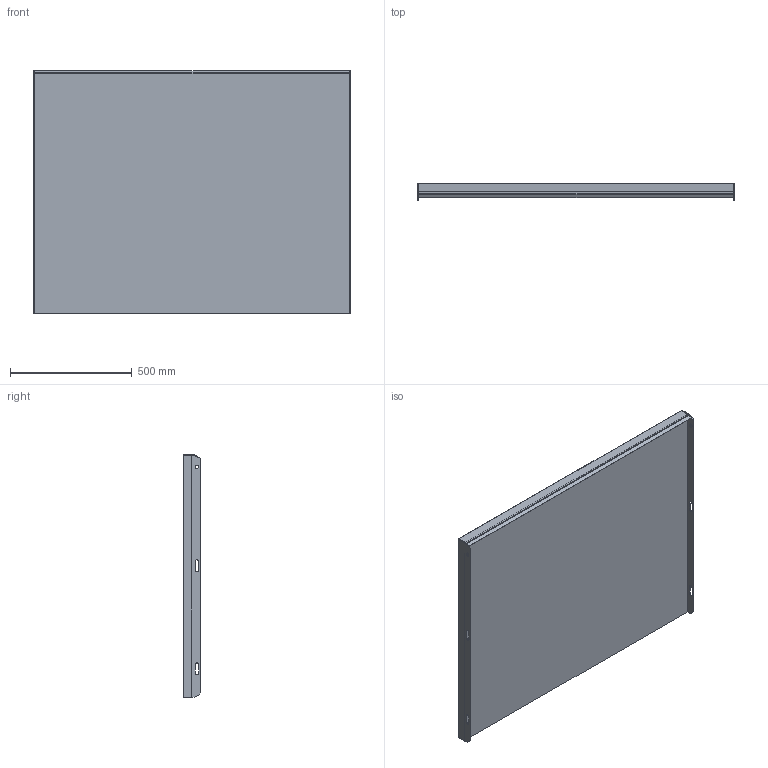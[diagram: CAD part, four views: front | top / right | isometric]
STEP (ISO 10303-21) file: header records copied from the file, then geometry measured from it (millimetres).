
FILE_DESCRIPTION (( 'STEP AP203' ), '1' );
FILE_NAME ('148813101, Plan TH6, 1300x1000, vfz.STEP', '2020-10-21T13:17:38', ( '' ), ( '' ), 'SwSTEP 2.0', 'SolidWorks 2019', '' );
FILE_SCHEMA (( 'CONFIG_CONTROL_DESIGN' ));
Length unit declared in the file: millimetre
Products named in the file (4): SW0000041800; 148813101, Plan TH6, 1300x1000, vfz; SW0000041754; SW0000041407
Assembly tree (4 placements, depth 2):
  148813101, Plan TH6, 1300x1000, vfz
    SW0000041800
    SW0000041407  x2
    SW0000041754
Bounding box: 1300 x 70 x 997 mm (x, y, z)
Volume: 45659053.6 mm3; surface area: 3182365 mm2
Topology: 4 solids, 4 shells, 69 faces, 172 edges, 112 vertices
Faces by surface type: plane 49, cylinder 20
Entity records: 1868 total; most frequent: DIRECTION 252, CARTESIAN_POINT 250, ORIENTED_EDGE 236, EDGE_CURVE 118, LINE 96, VECTOR 96, AXIS2_PLACEMENT_3D 78, VERTEX_POINT 76
